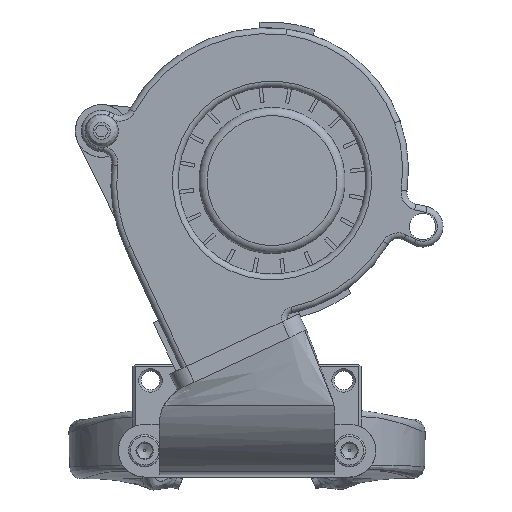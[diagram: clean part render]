
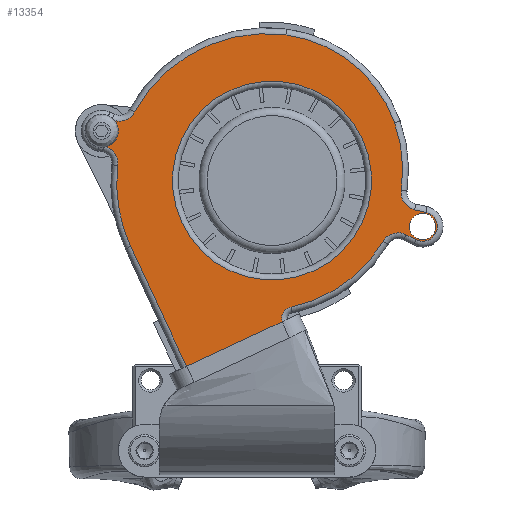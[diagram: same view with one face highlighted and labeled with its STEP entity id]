
A CAD part, front view. The second image highlights one B-rep face of the part: STEP entity #13354.
In plain terms, the highlighted planar face has unit normal (0, -1, 0) as drawn and (0, 1, 0) by its records, which use the part's own axes.
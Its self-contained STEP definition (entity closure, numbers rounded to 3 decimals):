
#355=FACE_BOUND('',#2260,.T.);
#356=FACE_BOUND('',#2261,.T.);
#357=FACE_BOUND('',#2262,.T.);
#1471=FACE_OUTER_BOUND('',#2259,.T.);
#2259=EDGE_LOOP('',(#9519,#9520,#9521,#9522,#9523,#9524,#9525,#9526,#9527,
#9528,#9529,#9530,#9531,#9532,#9533,#9534,#9535,#9536,#9537));
#2260=EDGE_LOOP('',(#9538));
#2261=EDGE_LOOP('',(#9539));
#2262=EDGE_LOOP('',(#9540));
#3013=LINE('',#21781,#3896);
#3031=LINE('',#21852,#3914);
#3043=LINE('',#21901,#3926);
#3044=LINE('',#21904,#3927);
#3045=LINE('',#21909,#3928);
#3046=LINE('',#21913,#3929);
#3047=LINE('',#21918,#3930);
#3896=VECTOR('',#15823,1.);
#3914=VECTOR('',#15897,1.);
#3926=VECTOR('',#15953,1.);
#3927=VECTOR('',#15956,1.);
#3928=VECTOR('',#15961,1.);
#3929=VECTOR('',#15964,1.);
#3930=VECTOR('',#15969,1.);
#4769=CIRCLE('',#14219,17.);
#4770=CIRCLE('',#14221,2.25);
#4799=CIRCLE('',#14257,3.);
#4807=CIRCLE('',#14268,22.905);
#4827=CIRCLE('',#14298,2.25);
#4860=CIRCLE('',#14345,25.567);
#4861=CIRCLE('',#14348,2.);
#4862=CIRCLE('',#14349,23.935);
#4863=CIRCLE('',#14350,3.);
#4864=CIRCLE('',#14351,2.5);
#4865=CIRCLE('',#14352,23.935);
#4866=CIRCLE('',#14353,3.);
#4867=CIRCLE('',#14354,2.5);
#4868=CIRCLE('',#14355,3.);
#4869=CIRCLE('',#14356,25.567);
#5395=VERTEX_POINT('',#21590);
#5396=VERTEX_POINT('',#21594);
#5433=VERTEX_POINT('',#21676);
#5434=VERTEX_POINT('',#21678);
#5441=VERTEX_POINT('',#21698);
#5443=VERTEX_POINT('',#21702);
#5467=VERTEX_POINT('',#21773);
#5469=VERTEX_POINT('',#21778);
#5470=VERTEX_POINT('',#21780);
#5495=VERTEX_POINT('',#21851);
#5505=VERTEX_POINT('',#21886);
#5507=VERTEX_POINT('',#21894);
#5508=VERTEX_POINT('',#21896);
#5509=VERTEX_POINT('',#21898);
#5510=VERTEX_POINT('',#21900);
#5511=VERTEX_POINT('',#21902);
#5512=VERTEX_POINT('',#21906);
#5513=VERTEX_POINT('',#21908);
#5514=VERTEX_POINT('',#21910);
#5515=VERTEX_POINT('',#21912);
#5516=VERTEX_POINT('',#21914);
#5517=VERTEX_POINT('',#21916);
#6885=EDGE_CURVE('',#5395,#5395,#4769,.T.);
#6886=EDGE_CURVE('',#5396,#5396,#4770,.T.);
#6925=EDGE_CURVE('',#5434,#5433,#4799,.T.);
#6938=EDGE_CURVE('',#5441,#5443,#4807,.T.);
#6974=EDGE_CURVE('',#5467,#5467,#4827,.T.);
#6977=EDGE_CURVE('',#5470,#5469,#3013,.T.);
#7014=EDGE_CURVE('',#5470,#5495,#3031,.T.);
#7036=EDGE_CURVE('',#5443,#5505,#4860,.T.);
#7039=EDGE_CURVE('',#5507,#5469,#4861,.T.);
#7040=EDGE_CURVE('',#5507,#5508,#4862,.T.);
#7041=EDGE_CURVE('',#5508,#5509,#4863,.T.);
#7042=EDGE_CURVE('',#5509,#5510,#3043,.T.);
#7043=EDGE_CURVE('',#5510,#5511,#4864,.T.);
#7044=EDGE_CURVE('',#5511,#5434,#3044,.T.);
#7045=EDGE_CURVE('',#5433,#5441,#4865,.T.);
#7046=EDGE_CURVE('',#5505,#5512,#4866,.T.);
#7047=EDGE_CURVE('',#5512,#5513,#3045,.T.);
#7048=EDGE_CURVE('',#5513,#5514,#4867,.T.);
#7049=EDGE_CURVE('',#5514,#5515,#3046,.T.);
#7050=EDGE_CURVE('',#5515,#5516,#4868,.T.);
#7051=EDGE_CURVE('',#5516,#5517,#4869,.T.);
#7052=EDGE_CURVE('',#5517,#5495,#3047,.T.);
#9519=ORIENTED_EDGE('',*,*,#7014,.F.);
#9520=ORIENTED_EDGE('',*,*,#6977,.T.);
#9521=ORIENTED_EDGE('',*,*,#7039,.F.);
#9522=ORIENTED_EDGE('',*,*,#7040,.T.);
#9523=ORIENTED_EDGE('',*,*,#7041,.T.);
#9524=ORIENTED_EDGE('',*,*,#7042,.T.);
#9525=ORIENTED_EDGE('',*,*,#7043,.T.);
#9526=ORIENTED_EDGE('',*,*,#7044,.T.);
#9527=ORIENTED_EDGE('',*,*,#6925,.T.);
#9528=ORIENTED_EDGE('',*,*,#7045,.T.);
#9529=ORIENTED_EDGE('',*,*,#6938,.T.);
#9530=ORIENTED_EDGE('',*,*,#7036,.T.);
#9531=ORIENTED_EDGE('',*,*,#7046,.T.);
#9532=ORIENTED_EDGE('',*,*,#7047,.T.);
#9533=ORIENTED_EDGE('',*,*,#7048,.T.);
#9534=ORIENTED_EDGE('',*,*,#7049,.T.);
#9535=ORIENTED_EDGE('',*,*,#7050,.T.);
#9536=ORIENTED_EDGE('',*,*,#7051,.T.);
#9537=ORIENTED_EDGE('',*,*,#7052,.T.);
#9538=ORIENTED_EDGE('',*,*,#6885,.T.);
#9539=ORIENTED_EDGE('',*,*,#6886,.F.);
#9540=ORIENTED_EDGE('',*,*,#6974,.F.);
#12937=PLANE('',#14347);
#13354=ADVANCED_FACE('',(#1471,#355,#356,#357),#12937,.T.);
#14219=AXIS2_PLACEMENT_3D('',#21592,#15627,#15628);
#14221=AXIS2_PLACEMENT_3D('',#21595,#15631,#15632);
#14257=AXIS2_PLACEMENT_3D('',#21679,#15713,#15714);
#14268=AXIS2_PLACEMENT_3D('',#21704,#15740,#15741);
#14298=AXIS2_PLACEMENT_3D('',#21774,#15816,#15817);
#14345=AXIS2_PLACEMENT_3D('',#21888,#15939,#15940);
#14347=AXIS2_PLACEMENT_3D('',#21893,#15945,#15946);
#14348=AXIS2_PLACEMENT_3D('',#21895,#15947,#15948);
#14349=AXIS2_PLACEMENT_3D('',#21897,#15949,#15950);
#14350=AXIS2_PLACEMENT_3D('',#21899,#15951,#15952);
#14351=AXIS2_PLACEMENT_3D('',#21903,#15954,#15955);
#14352=AXIS2_PLACEMENT_3D('',#21905,#15957,#15958);
#14353=AXIS2_PLACEMENT_3D('',#21907,#15959,#15960);
#14354=AXIS2_PLACEMENT_3D('',#21911,#15962,#15963);
#14355=AXIS2_PLACEMENT_3D('',#21915,#15965,#15966);
#14356=AXIS2_PLACEMENT_3D('',#21917,#15967,#15968);
#15627=DIRECTION('center_axis',(0.,-1.,0.));
#15628=DIRECTION('ref_axis',(0.423,0.,0.906));
#15631=DIRECTION('center_axis',(0.,1.,0.));
#15632=DIRECTION('ref_axis',(0.423,0.,0.906));
#15713=DIRECTION('center_axis',(0.,-1.,0.));
#15714=DIRECTION('ref_axis',(0.423,0.,0.906));
#15740=DIRECTION('center_axis',(0.,1.,0.));
#15741=DIRECTION('ref_axis',(0.423,0.,0.906));
#15816=DIRECTION('center_axis',(0.,1.,0.));
#15817=DIRECTION('ref_axis',(0.423,0.,0.906));
#15823=DIRECTION('',(0.423,0.,0.906));
#15897=DIRECTION('',(0.906,0.,-0.423));
#15939=DIRECTION('center_axis',(0.,1.,0.));
#15940=DIRECTION('ref_axis',(0.423,0.,0.906));
#15945=DIRECTION('center_axis',(0.,1.,0.));
#15946=DIRECTION('ref_axis',(0.423,0.,0.906));
#15947=DIRECTION('center_axis',(0.,1.,0.));
#15948=DIRECTION('ref_axis',(0.423,0.,0.906));
#15949=DIRECTION('center_axis',(0.,1.,0.));
#15950=DIRECTION('ref_axis',(0.423,0.,0.906));
#15951=DIRECTION('center_axis',(0.,-1.,0.));
#15952=DIRECTION('ref_axis',(0.423,0.,0.906));
#15953=DIRECTION('',(-0.895,0.,-0.446));
#15954=DIRECTION('center_axis',(0.,1.,0.));
#15955=DIRECTION('ref_axis',(0.423,0.,0.906));
#15956=DIRECTION('',(0.976,0.,0.218));
#15957=DIRECTION('center_axis',(0.,1.,0.));
#15958=DIRECTION('ref_axis',(0.423,0.,0.906));
#15959=DIRECTION('center_axis',(0.,-1.,0.));
#15960=DIRECTION('ref_axis',(0.423,0.,0.906));
#15961=DIRECTION('',(0.91,0.,0.414));
#15962=DIRECTION('center_axis',(0.,1.,0.));
#15963=DIRECTION('ref_axis',(0.423,0.,0.906));
#15964=DIRECTION('',(-0.982,0.,-0.188));
#15965=DIRECTION('center_axis',(0.,-1.,0.));
#15966=DIRECTION('ref_axis',(0.423,0.,0.906));
#15967=DIRECTION('center_axis',(0.,1.,0.));
#15968=DIRECTION('ref_axis',(0.423,0.,0.906));
#15969=DIRECTION('',(-0.423,0.,-0.906));
#21590=CARTESIAN_POINT('',(-11.424,47.8,10.538));
#21592=CARTESIAN_POINT('Origin',(-4.24,47.8,25.946));
#21594=CARTESIAN_POINT('',(25.827,47.8,36.475));
#21595=CARTESIAN_POINT('Origin',(24.877,47.8,34.436));
#21676=CARTESIAN_POINT('',(-26.321,47.8,24.308));
#21678=CARTESIAN_POINT('',(-28.635,47.8,20.945));
#21679=CARTESIAN_POINT('Origin',(-29.289,47.8,23.873));
#21698=CARTESIAN_POINT('',(-25.185,47.8,35.816));
#21702=CARTESIAN_POINT('',(-6.628,47.8,50.832));
#21704=CARTESIAN_POINT('Origin',(-3.609,47.8,28.126));
#21773=CARTESIAN_POINT('',(-29.022,47.8,20.124));
#21774=CARTESIAN_POINT('Origin',(-29.973,47.8,18.084));
#21778=CARTESIAN_POINT('',(-6.077,47.8,1.537));
#21780=CARTESIAN_POINT('',(-7.219,47.8,-0.912));
#21781=CARTESIAN_POINT('',(3.804,47.8,22.728));
#21851=CARTESIAN_POINT('',(9.094,47.8,-8.519));
#21852=CARTESIAN_POINT('',(-0.457,47.8,-4.065));
#21886=CARTESIAN_POINT('',(19.218,47.8,37.674));
#21888=CARTESIAN_POINT('Origin',(-3.258,47.8,25.488));
#21893=CARTESIAN_POINT('Origin',(-2.497,47.8,25.666));
#21894=CARTESIAN_POINT('',(-7.485,47.8,4.341));
#21895=CARTESIAN_POINT('Origin',(-7.89,47.8,2.383));
#21896=CARTESIAN_POINT('',(-23.215,47.8,15.553));
#21897=CARTESIAN_POINT('Origin',(-2.639,47.8,27.781));
#21898=CARTESIAN_POINT('',(-27.131,47.8,16.706));
#21899=CARTESIAN_POINT('Origin',(-25.794,47.8,14.021));
#21900=CARTESIAN_POINT('',(-28.859,47.8,15.846));
#21901=CARTESIAN_POINT('',(-3.814,47.8,28.313));
#21902=CARTESIAN_POINT('',(-30.518,47.8,20.524));
#21903=CARTESIAN_POINT('Origin',(-29.973,47.8,18.084));
#21904=CARTESIAN_POINT('',(-28.635,47.8,20.945));
#21905=CARTESIAN_POINT('Origin',(-2.639,47.8,27.781));
#21906=CARTESIAN_POINT('',(23.097,47.8,36.373));
#21907=CARTESIAN_POINT('Origin',(21.855,47.8,39.104));
#21908=CARTESIAN_POINT('',(23.842,47.8,36.712));
#21909=CARTESIAN_POINT('',(-2.146,47.8,24.895));
#21910=CARTESIAN_POINT('',(25.346,47.8,31.981));
#21911=CARTESIAN_POINT('Origin',(24.877,47.8,34.436));
#21912=CARTESIAN_POINT('',(24.543,47.8,31.827));
#21913=CARTESIAN_POINT('',(24.543,47.8,31.827));
#21914=CARTESIAN_POINT('',(22.128,47.8,28.524));
#21915=CARTESIAN_POINT('Origin',(25.107,47.8,28.88));
#21916=CARTESIAN_POINT('',(19.913,47.8,14.683));
#21917=CARTESIAN_POINT('Origin',(-3.258,47.8,25.488));
#21918=CARTESIAN_POINT('',(20.118,47.8,15.121));
